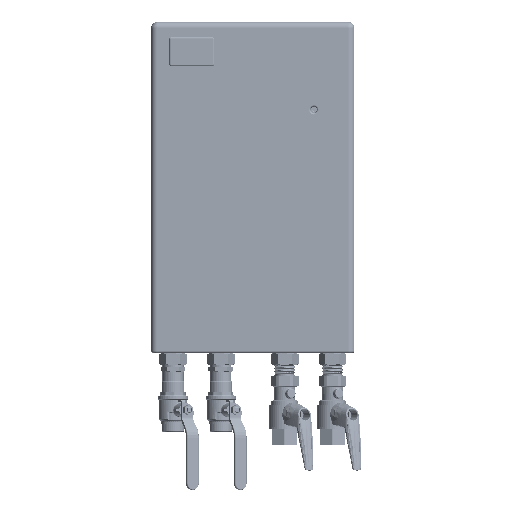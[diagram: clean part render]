
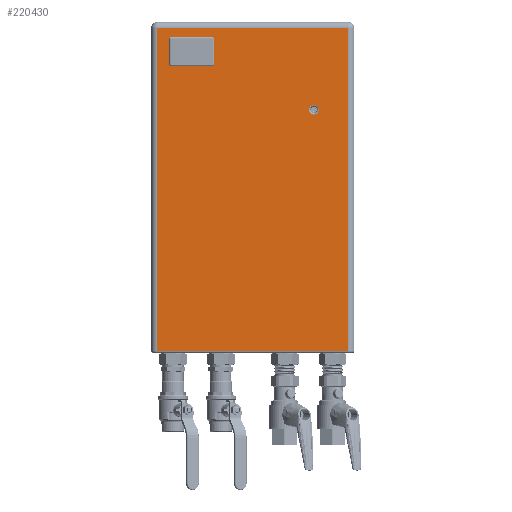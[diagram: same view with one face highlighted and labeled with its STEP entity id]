
A CAD part, top view. The second image highlights one B-rep face of the part: STEP entity #220430.
In plain terms, the highlighted planar face has unit normal (0, 0, 1) as drawn and (0, 0, -1) by its records, which use the part's own axes.
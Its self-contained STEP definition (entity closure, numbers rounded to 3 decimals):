
#10815=LINE('',#337739,#33659);
#10816=LINE('',#337741,#33660);
#10817=LINE('',#337743,#33661);
#10818=LINE('',#337744,#33662);
#33659=VECTOR('',#262807,404.);
#33660=VECTOR('',#262808,239.);
#33661=VECTOR('',#262809,404.);
#33662=VECTOR('',#262810,239.);
#63059=FACE_BOUND('',#78249,.T.);
#66205=FACE_OUTER_BOUND('',#78248,.T.);
#78248=EDGE_LOOP('',(#167292,#167293,#167294,#167295));
#78249=EDGE_LOOP('',(#167296));
#89596=CIRCLE('',#233993,5.999);
#100131=VERTEX_POINT('',#337737);
#100132=VERTEX_POINT('',#337738);
#100133=VERTEX_POINT('',#337740);
#100134=VERTEX_POINT('',#337742);
#100135=VERTEX_POINT('',#337745);
#126556=EDGE_CURVE('',#100131,#100132,#10815,.T.);
#126557=EDGE_CURVE('',#100132,#100133,#10816,.T.);
#126558=EDGE_CURVE('',#100133,#100134,#10817,.T.);
#126559=EDGE_CURVE('',#100134,#100131,#10818,.T.);
#126560=EDGE_CURVE('',#100135,#100135,#89596,.T.);
#167292=ORIENTED_EDGE('',*,*,#126556,.T.);
#167293=ORIENTED_EDGE('',*,*,#126557,.T.);
#167294=ORIENTED_EDGE('',*,*,#126558,.T.);
#167295=ORIENTED_EDGE('',*,*,#126559,.T.);
#167296=ORIENTED_EDGE('',*,*,#126560,.T.);
#212872=PLANE('',#233992);
#220430=ADVANCED_FACE('',(#66205,#63059),#212872,.T.);
#233992=AXIS2_PLACEMENT_3D('',#337736,#262805,#262806);
#233993=AXIS2_PLACEMENT_3D('',#337746,#262811,#262812);
#262805=DIRECTION('center_axis',(0.,0.,-1.));
#262806=DIRECTION('ref_axis',(-1.,0.,0.));
#262807=DIRECTION('',(0.,-1.,0.));
#262808=DIRECTION('',(-1.,0.,0.));
#262809=DIRECTION('',(0.,1.,0.));
#262810=DIRECTION('',(1.,0.,0.));
#262811=DIRECTION('center_axis',(0.,0.,1.));
#262812=DIRECTION('ref_axis',(-1.,0.,0.));
#337736=CARTESIAN_POINT('Origin',(0.,0.,0.));
#337737=CARTESIAN_POINT('',(119.5,407.,0.));
#337738=CARTESIAN_POINT('',(119.5,3.,0.));
#337739=CARTESIAN_POINT('',(119.5,0.,0.));
#337740=CARTESIAN_POINT('',(-119.5,3.,0.));
#337741=CARTESIAN_POINT('',(-119.5,3.,0.));
#337742=CARTESIAN_POINT('',(-119.5,407.,0.));
#337743=CARTESIAN_POINT('',(-119.5,415.,0.));
#337744=CARTESIAN_POINT('',(127.5,407.,0.));
#337745=CARTESIAN_POINT('',(-82.499,305.,0.));
#337746=CARTESIAN_POINT('Origin',(-76.5,305.,0.));
